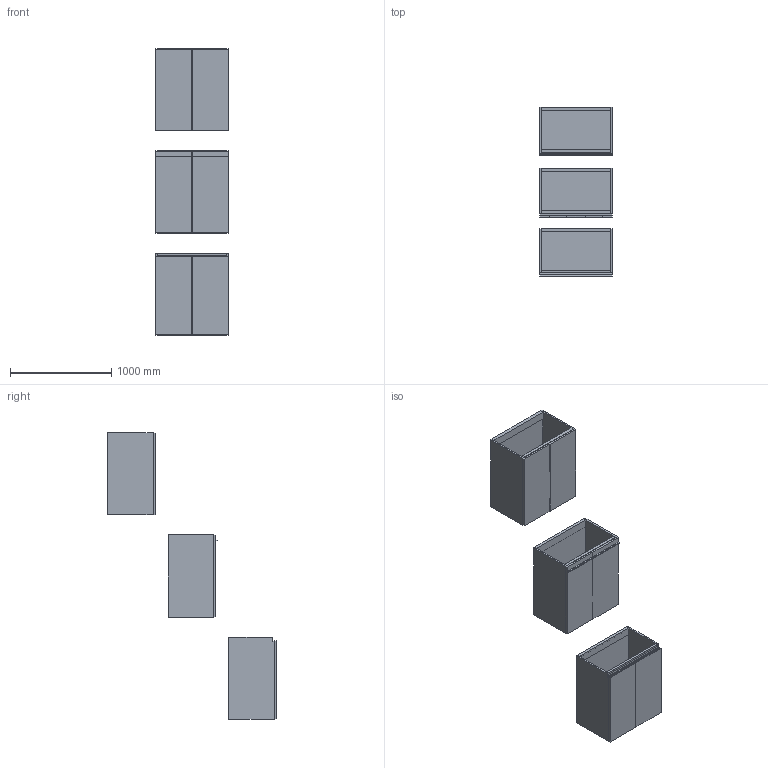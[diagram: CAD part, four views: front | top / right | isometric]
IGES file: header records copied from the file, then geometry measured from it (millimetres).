
Start section: Data from Parasolid IGES Translator 19.0.9, Copyright(c) 2006 Siemens PL M Software. All Rights Reserved.
Global section: file name: noorth-SI-H 81,2 D 47 W 72_8704.igs; native system: By Siemens PLM Incorporated; preprocessor: XPlus GENERIC/IGES 19.0.9; author: Noname; organization: Noname; date: 20200601.135937; units: metre
Bounding box: 720 x 1669.1 x 2832.01 mm (x, y, z)
Volume: 93208272 mm3; surface area: 14294506.6 mm2
Topology: 27 solids, 27 shells, 264 faces, 574 edges, 340 vertices
Faces by surface type: plane 180, cylinder 52, sphere 20, torus 12
